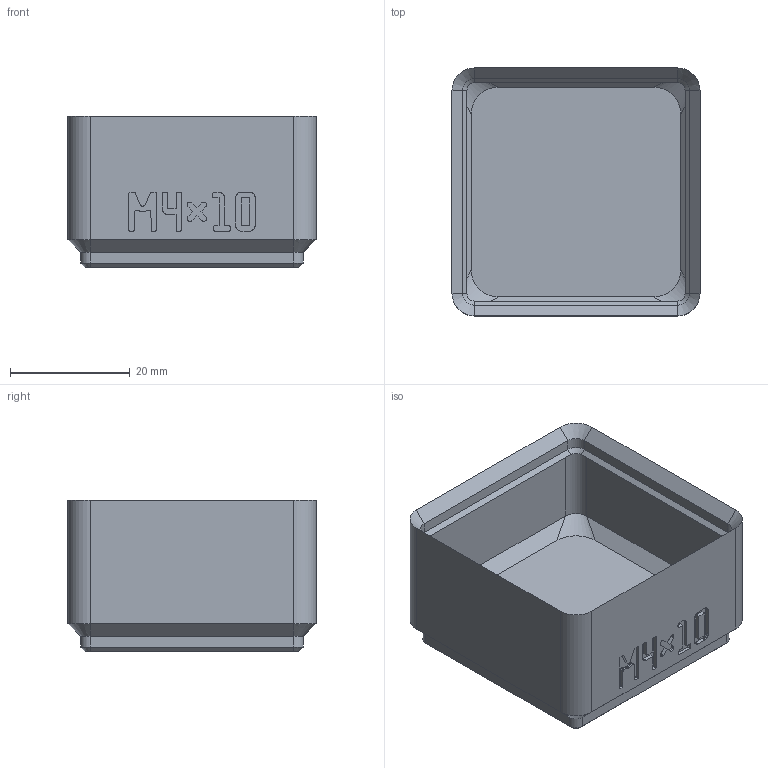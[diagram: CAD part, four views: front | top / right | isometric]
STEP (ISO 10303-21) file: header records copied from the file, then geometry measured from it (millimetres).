
FILE_DESCRIPTION(('Open CASCADE Model'),'2;1');
FILE_NAME('bin_m4x10','2026-11-03T16:47:48',('Author'),('Open CASCADE'), 'Open CASCADE STEP processor 8.0','build123d','Unknown');
FILE_SCHEMA(('AUTOMOTIVE_DESIGN { 1 0 10303 214 1 1 1 1 }'));
Length unit declared in the file: millimetre
Products named in the file (1): bin_m4x10
Bounding box: 41.5 x 41.5 x 25.4 mm (x, y, z)
Volume: 12305.8 mm3; surface area: 10471.3 mm2
Topology: 1 solids, 1 shells, 537 faces, 1504 edges, 984 vertices
Faces by surface type: plane 489, cylinder 24, cone 16, bspline 8
Full cylindrical faces by diameter (mm): 3.2 x4, 6.5 x4
Entity records: 35476 total; most frequent: CARTESIAN_POINT 7182, DIRECTION 4584, LINE 3376, VECTOR 3376, ORIENTED_EDGE 3008, PCURVE 3008, DEFINITIONAL_REPRESENTATION 3008, EDGE_CURVE 1504
